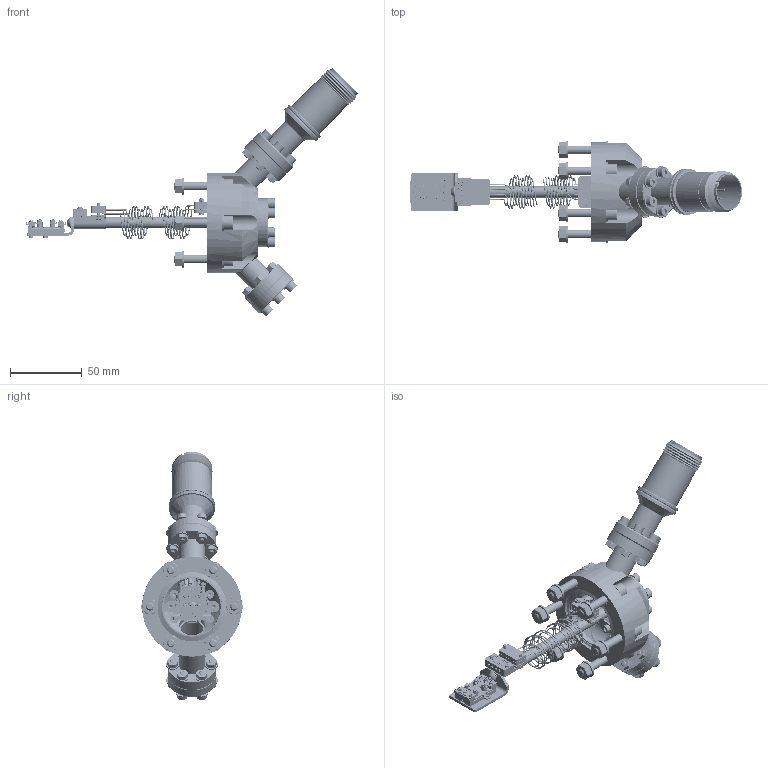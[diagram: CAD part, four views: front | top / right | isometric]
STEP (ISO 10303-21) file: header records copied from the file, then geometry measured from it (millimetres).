
FILE_DESCRIPTION(('Confidential','CAx-IF Rec.Pracs.--- Model Styling and Organization---1.2---2011-12-15','CAx-IF Rec.Pracs.--- Geometric and Assembly Validation Properties ---3.1---2011-10-19'),'2;1');
FILE_NAME('W:\KONSTRUKTION\PRODUCTS\HS\HSAS\HSASOM\HSASOM40\HSASOM40(DC)\HSASOM40(DC).stp','2026-05-19T12:53:57+00:00',('none'),('Ferrovac AG'),'CATIA Version 5 Release 21 SP 6 (IN-10)','CATIA V5 STEP AP214 Edition 3','PROPERTY OF FERROVAC AG');
FILE_SCHEMA(('AUTOMOTIVE_DESIGN { 1 0 10303 214 3 1 1 1 }'));
Products named in the file (1): HSASOM40(DC)_AllCATPart
Bounding box: 231.21 x 70.7 x 173.08 mm (x, y, z)
Volume: 149286.1 mm3; surface area: 88999.5 mm2
Topology: 4 solids, 53 shells, 4440 faces, 11960 edges, 7811 vertices
Faces by surface type: cylinder 1697, plane 1498, cone 637, torus 514, bspline 90, extrusion 4
Entity records: 158512 total; most frequent: CARTESIAN_POINT 52276, ORIENTED_EDGE 23692, DIRECTION 16401, EDGE_CURVE 11846, AXIS2_PLACEMENT_3D 8202, VERTEX_POINT 7789, EDGE_LOOP 4962, ADVANCED_FACE 4424
